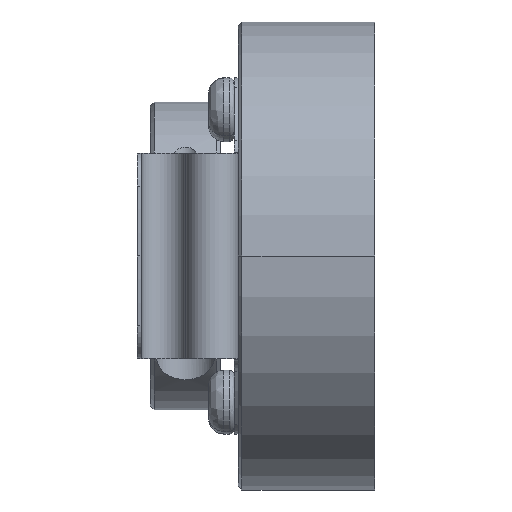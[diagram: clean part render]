
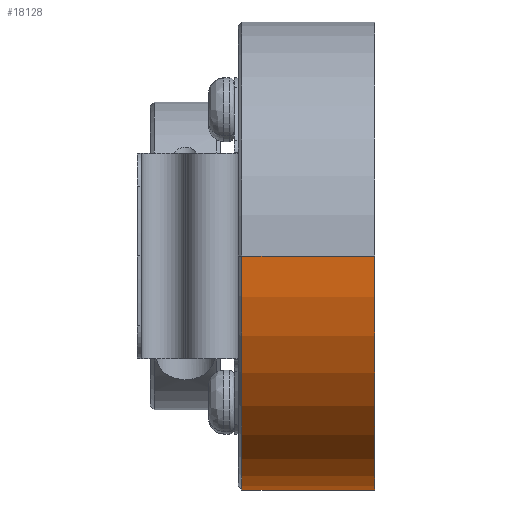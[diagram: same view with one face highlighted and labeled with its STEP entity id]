
A CAD part, front view. The second image highlights one B-rep face of the part: STEP entity #18128.
In plain terms, the highlighted cylindrical face has radius 18.25 mm (diameter 36.5 mm), a partial arc.
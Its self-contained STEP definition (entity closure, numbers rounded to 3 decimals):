
#154 = EDGE_LOOP ( 'NONE', ( #10265, #27764, #22041, #5842 ) ) ;
#1740 = CARTESIAN_POINT ( 'NONE',  ( -1000., 0., 0. ) ) ;
#2671 = CARTESIAN_POINT ( 'NONE',  ( -11.65, 18.25, 0. ) ) ;
#2725 = EDGE_CURVE ( 'NONE', #14466, #26716, #28278, .T. ) ;
#5842 = ORIENTED_EDGE ( 'NONE', *, *, #23603, .F. ) ;
#5944 = DIRECTION ( 'NONE',  ( -1., 0., 0. ) ) ;
#5945 = AXIS2_PLACEMENT_3D ( 'NONE', #25735, #17289, #27908 ) ;
#5997 = DIRECTION ( 'NONE',  ( -1., 0., 0. ) ) ;
#6343 = DIRECTION ( 'NONE',  ( -1., 0., 0. ) ) ;
#8778 = EDGE_CURVE ( 'NONE', #25181, #23709, #21424, .T. ) ;
#10213 = AXIS2_PLACEMENT_3D ( 'NONE', #17230, #6343, #13418 ) ;
#10265 = ORIENTED_EDGE ( 'NONE', *, *, #2725, .T. ) ;
#12190 = CARTESIAN_POINT ( 'NONE',  ( -1.3, 18.25, 0. ) ) ;
#12806 = CARTESIAN_POINT ( 'NONE',  ( -11.65, -18.25, 0. ) ) ;
#13418 = DIRECTION ( 'NONE',  ( 0., 1., 0. ) ) ;
#13981 = LINE ( 'NONE', #15985, #28254 ) ;
#14466 = VERTEX_POINT ( 'NONE', #12190 ) ;
#15985 = CARTESIAN_POINT ( 'NONE',  ( -1000., 18.25, 0. ) ) ;
#16198 = EDGE_CURVE ( 'NONE', #26716, #25181, #27370, .T. ) ;
#17086 = DIRECTION ( 'NONE',  ( 0., 1., 0. ) ) ;
#17230 = CARTESIAN_POINT ( 'NONE',  ( -1.3, 0., 0. ) ) ;
#17289 = DIRECTION ( 'NONE',  ( 1., 0., 0. ) ) ;
#17864 = DIRECTION ( 'NONE',  ( -1., 0., 0. ) ) ;
#18128 = ADVANCED_FACE ( 'NONE', ( #24829 ), #19345, .T. ) ;
#19345 = CYLINDRICAL_SURFACE ( 'NONE', #24649, 18.25 ) ;
#21424 = CIRCLE ( 'NONE', #5945, 18.25 ) ;
#21602 = CARTESIAN_POINT ( 'NONE',  ( -1000., -18.25, 0. ) ) ;
#22041 = ORIENTED_EDGE ( 'NONE', *, *, #8778, .T. ) ;
#23603 = EDGE_CURVE ( 'NONE', #14466, #23709, #13981, .T. ) ;
#23709 = VERTEX_POINT ( 'NONE', #2671 ) ;
#24584 = CARTESIAN_POINT ( 'NONE',  ( -1.3, -18.25, 0. ) ) ;
#24649 = AXIS2_PLACEMENT_3D ( 'NONE', #1740, #5997, #17086 ) ;
#24829 = FACE_OUTER_BOUND ( 'NONE', #154, .T. ) ;
#25181 = VERTEX_POINT ( 'NONE', #12806 ) ;
#25735 = CARTESIAN_POINT ( 'NONE',  ( -11.65, 0., 0. ) ) ;
#26681 = VECTOR ( 'NONE', #5944, 1000. ) ;
#26716 = VERTEX_POINT ( 'NONE', #24584 ) ;
#27370 = LINE ( 'NONE', #21602, #26681 ) ;
#27764 = ORIENTED_EDGE ( 'NONE', *, *, #16198, .T. ) ;
#27908 = DIRECTION ( 'NONE',  ( 0., 1., 0. ) ) ;
#28254 = VECTOR ( 'NONE', #17864, 1000. ) ;
#28278 = CIRCLE ( 'NONE', #10213, 18.25 ) ;
